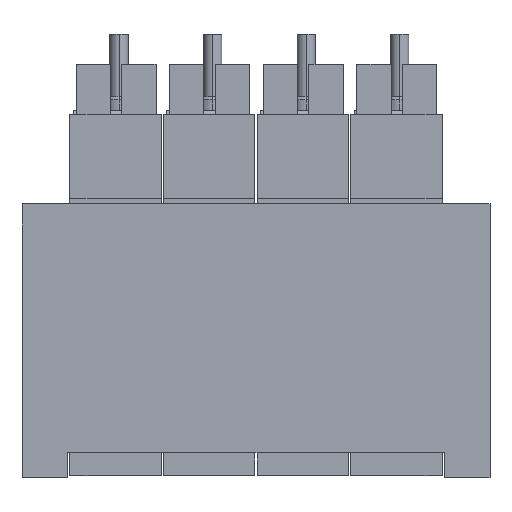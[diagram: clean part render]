
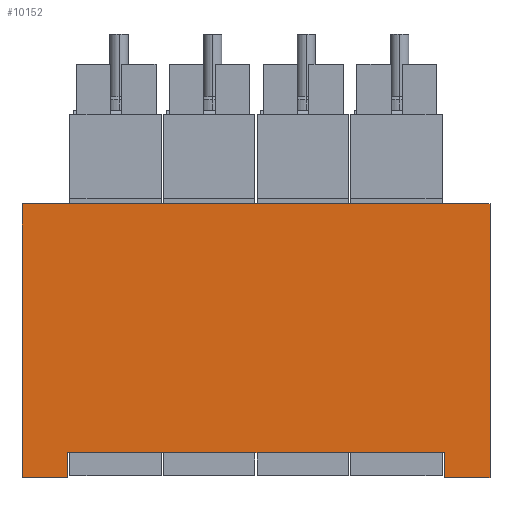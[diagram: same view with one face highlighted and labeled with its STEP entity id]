
A CAD part, left-side view. The second image highlights one B-rep face of the part: STEP entity #10152.
In plain terms, the highlighted free-form (B-spline) face has degree [1, 1] with [2, 2] control points.
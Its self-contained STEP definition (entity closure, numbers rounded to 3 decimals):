
#9892=CARTESIAN_POINT('',(0.,92.5,0.));
#9893=VERTEX_POINT('',#9892);
#9894=CARTESIAN_POINT('',(0.,92.5,5.5));
#9895=VERTEX_POINT('',#9894);
#9896=CARTESIAN_POINT('',(0.,92.5,0.));
#9897=CARTESIAN_POINT('',(0.,92.5,5.5));
#9898=QUASI_UNIFORM_CURVE('',1,(#9896,#9897),.UNSPECIFIED.,.F.,.U.);
#9899=EDGE_CURVE('',#9893,#9895,#9898,.T.);
#9937=CARTESIAN_POINT('',(0.,102.5,0.));
#9938=VERTEX_POINT('',#9937);
#9950=CARTESIAN_POINT('',(0.,92.5,0.));
#9951=CARTESIAN_POINT('',(0.,102.5,0.));
#9952=QUASI_UNIFORM_CURVE('',1,(#9950,#9951),.UNSPECIFIED.,.F.,.U.);
#9953=EDGE_CURVE('',#9893,#9938,#9952,.T.);
#10007=CARTESIAN_POINT('',(0.,10.,0.));
#10008=VERTEX_POINT('',#10007);
#10009=CARTESIAN_POINT('',(0.,10.,5.5));
#10010=VERTEX_POINT('',#10009);
#10011=CARTESIAN_POINT('',(0.,10.,0.));
#10012=CARTESIAN_POINT('',(0.,10.,5.5));
#10013=QUASI_UNIFORM_CURVE('',1,(#10011,#10012),.UNSPECIFIED.,.F.,.U.);
#10014=EDGE_CURVE('',#10008,#10010,#10013,.T.);
#10052=CARTESIAN_POINT('',(0.,0.,0.));
#10053=VERTEX_POINT('',#10052);
#10059=CARTESIAN_POINT('',(0.,10.,0.));
#10060=CARTESIAN_POINT('',(0.,0.,0.));
#10061=QUASI_UNIFORM_CURVE('',1,(#10059,#10060),.UNSPECIFIED.,.F.,.U.);
#10062=EDGE_CURVE('',#10008,#10053,#10061,.T.);
#10117=CARTESIAN_POINT('',(0.,-10.25,66.));
#10118=CARTESIAN_POINT('',(0.,-10.25,-6.));
#10119=CARTESIAN_POINT('',(0.,112.75,66.));
#10120=CARTESIAN_POINT('',(0.,112.75,-6.));
#10121=B_SPLINE_SURFACE_WITH_KNOTS('',1,1,((#10117,#10119),(#10118,#10120)),.UNSPECIFIED.,.F.,.F.,.U.,(2,2),(2,2),(0.,72.),(0.,123.),.UNSPECIFIED.);
#10122=CARTESIAN_POINT('',(0.,0.,60.));
#10123=VERTEX_POINT('',#10122);
#10124=CARTESIAN_POINT('',(0.,0.,0.));
#10125=CARTESIAN_POINT('',(0.,0.,60.));
#10126=QUASI_UNIFORM_CURVE('',1,(#10124,#10125),.UNSPECIFIED.,.F.,.U.);
#10127=EDGE_CURVE('',#10053,#10123,#10126,.T.);
#10128=ORIENTED_EDGE('',*,*,#10127,.T.);
#10129=CARTESIAN_POINT('',(0.,102.5,60.));
#10130=VERTEX_POINT('',#10129);
#10131=CARTESIAN_POINT('',(0.,102.5,60.));
#10132=CARTESIAN_POINT('',(0.,0.,60.));
#10133=QUASI_UNIFORM_CURVE('',1,(#10131,#10132),.UNSPECIFIED.,.F.,.U.);
#10134=EDGE_CURVE('',#10130,#10123,#10133,.T.);
#10135=ORIENTED_EDGE('',*,*,#10134,.F.);
#10136=CARTESIAN_POINT('',(0.,102.5,0.));
#10137=CARTESIAN_POINT('',(0.,102.5,60.));
#10138=QUASI_UNIFORM_CURVE('',1,(#10136,#10137),.UNSPECIFIED.,.F.,.U.);
#10139=EDGE_CURVE('',#9938,#10130,#10138,.T.);
#10140=ORIENTED_EDGE('',*,*,#10139,.F.);
#10141=ORIENTED_EDGE('',*,*,#9953,.F.);
#10142=ORIENTED_EDGE('',*,*,#9899,.T.);
#10143=CARTESIAN_POINT('',(0.,92.5,5.5));
#10144=CARTESIAN_POINT('',(0.,10.,5.5));
#10145=QUASI_UNIFORM_CURVE('',1,(#10143,#10144),.UNSPECIFIED.,.F.,.U.);
#10146=EDGE_CURVE('',#9895,#10010,#10145,.T.);
#10147=ORIENTED_EDGE('',*,*,#10146,.T.);
#10148=ORIENTED_EDGE('',*,*,#10014,.F.);
#10149=ORIENTED_EDGE('',*,*,#10062,.T.);
#10150=EDGE_LOOP('',(#10128,#10135,#10140,#10141,#10142,#10147,#10148,#10149));
#10151=FACE_OUTER_BOUND('',#10150,.T.);
#10152=ADVANCED_FACE('',(#10151),#10121,.F.);
